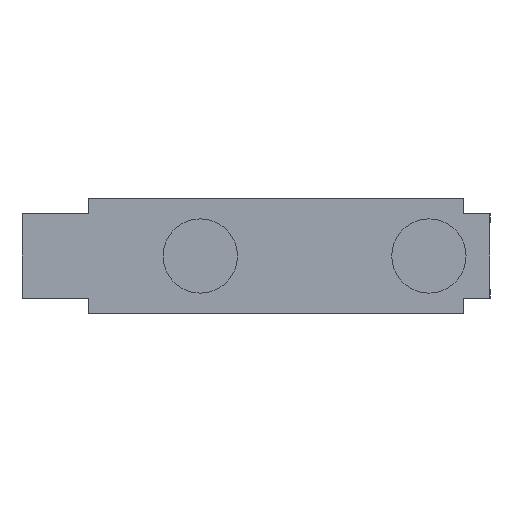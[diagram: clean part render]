
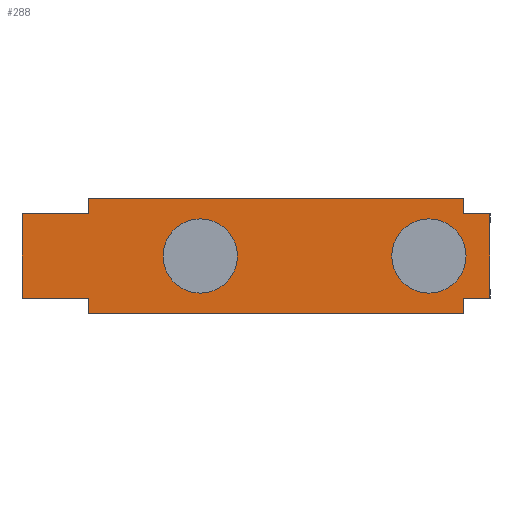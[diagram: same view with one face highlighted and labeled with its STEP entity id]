
A CAD part, left-side view. The second image highlights one B-rep face of the part: STEP entity #288.
In plain terms, the highlighted planar face has unit normal (-1, 0, 0).
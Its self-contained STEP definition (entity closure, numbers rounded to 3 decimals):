
#34 = VECTOR ( 'NONE', #701, 1000. ) ;
#61 = LINE ( 'NONE', #700, #34 ) ;
#62 = CIRCLE ( 'NONE', #2578, 5.2 ) ;
#123 = CIRCLE ( 'NONE', #2347, 5.2 ) ;
#274 = DIRECTION ( 'NONE',  ( -1., 0., 0. ) ) ;
#288 = ADVANCED_FACE ( 'NONE', ( #1898, #1899, #1903 ), #2242, .F. ) ;
#366 = DIRECTION ( 'NONE',  ( 0., -1., 0. ) ) ;
#411 = DIRECTION ( 'NONE',  ( 0., -1., 0. ) ) ;
#414 = CARTESIAN_POINT ( 'NONE',  ( 0.65, -8.55, 5.9 ) ) ;
#441 = CARTESIAN_POINT ( 'NONE',  ( 0.65, 56.95, -5.9 ) ) ;
#457 = DIRECTION ( 'NONE',  ( 0., 0., 1. ) ) ;
#458 = CARTESIAN_POINT ( 'NONE',  ( 0.65, -4.9, -8. ) ) ;
#462 = CARTESIAN_POINT ( 'NONE',  ( 0.65, 47.6, 8. ) ) ;
#463 = DIRECTION ( 'NONE',  ( 0., 1., 0. ) ) ;
#472 = CARTESIAN_POINT ( 'NONE',  ( 0.65, 47.6, -8. ) ) ;
#473 = DIRECTION ( 'NONE',  ( 0., 0., 1. ) ) ;
#498 = CARTESIAN_POINT ( 'NONE',  ( 0.65, 56.95, 5.9 ) ) ;
#501 = CARTESIAN_POINT ( 'NONE',  ( 0.65, 32., 0. ) ) ;
#503 = DIRECTION ( 'NONE',  ( -1., 0., 0. ) ) ;
#504 = DIRECTION ( 'NONE',  ( 0., -1., 0. ) ) ;
#510 = DIRECTION ( 'NONE',  ( 0., 0., 1. ) ) ;
#521 = CARTESIAN_POINT ( 'NONE',  ( 0.65, -8.55, -5.9 ) ) ;
#522 = DIRECTION ( 'NONE',  ( 0., 1., 0. ) ) ;
#559 = CARTESIAN_POINT ( 'NONE',  ( 0.65, -4.9, -8. ) ) ;
#566 = DIRECTION ( 'NONE',  ( 0., 0., 1. ) ) ;
#579 = CARTESIAN_POINT ( 'NONE',  ( 0.65, 47.6, -8. ) ) ;
#591 = DIRECTION ( 'NONE',  ( 0., 0., 1. ) ) ;
#598 = CARTESIAN_POINT ( 'NONE',  ( 0.65, 47.6, -5.9 ) ) ;
#599 = DIRECTION ( 'NONE',  ( 0., 1., 0. ) ) ;
#634 = CARTESIAN_POINT ( 'NONE',  ( 0.65, 0., 0. ) ) ;
#668 = DIRECTION ( 'NONE',  ( -1., 0., 0. ) ) ;
#669 = DIRECTION ( 'NONE',  ( 0., -1., 0. ) ) ;
#700 = CARTESIAN_POINT ( 'NONE',  ( 0.65, 47.6, -8. ) ) ;
#701 = DIRECTION ( 'NONE',  ( 0., 1., 0. ) ) ;
#727 = CARTESIAN_POINT ( 'NONE',  ( 0.65, 0., 0. ) ) ;
#737 = DIRECTION ( 'NONE',  ( -1., 0., 0. ) ) ;
#738 = DIRECTION ( 'NONE',  ( 0., -1., 0. ) ) ;
#803 = LINE ( 'NONE', #414, #806 ) ;
#806 = VECTOR ( 'NONE', #411, 1000. ) ;
#921 = LINE ( 'NONE', #1617, #944 ) ;
#926 = LINE ( 'NONE', #1627, #927 ) ;
#927 = VECTOR ( 'NONE', #1626, 1000. ) ;
#928 = CIRCLE ( 'NONE', #2317, 5.2 ) ;
#944 = VECTOR ( 'NONE', #1609, 1000. ) ;
#950 = LINE ( 'NONE', #462, #959 ) ;
#959 = VECTOR ( 'NONE', #463, 1000. ) ;
#962 = LINE ( 'NONE', #458, #963 ) ;
#963 = VECTOR ( 'NONE', #457, 1000. ) ;
#976 = LINE ( 'NONE', #472, #977 ) ;
#977 = VECTOR ( 'NONE', #473, 1000. ) ;
#1003 = LINE ( 'NONE', #498, #1007 ) ;
#1004 = CIRCLE ( 'NONE', #2334, 5.2 ) ;
#1007 = VECTOR ( 'NONE', #510, 1000. ) ;
#1019 = LINE ( 'NONE', #521, #1020 ) ;
#1020 = VECTOR ( 'NONE', #522, 1000. ) ;
#1045 = LINE ( 'NONE', #559, #1059 ) ;
#1059 = VECTOR ( 'NONE', #566, 1000. ) ;
#1060 = LINE ( 'NONE', #579, #1083 ) ;
#1083 = VECTOR ( 'NONE', #591, 1000. ) ;
#1090 = LINE ( 'NONE', #598, #1957 ) ;
#1099 = CARTESIAN_POINT ( 'NONE',  ( 0.65, -8.55, -5.9 ) ) ;
#1109 = CARTESIAN_POINT ( 'NONE',  ( 0.65, -5.2, 0. ) ) ;
#1111 = CARTESIAN_POINT ( 'NONE',  ( 0.65, 5.2, 0. ) ) ;
#1132 = CARTESIAN_POINT ( 'NONE',  ( 0.65, 47.6, 8. ) ) ;
#1134 = CARTESIAN_POINT ( 'NONE',  ( 0.65, 47.6, -5.9 ) ) ;
#1152 = CARTESIAN_POINT ( 'NONE',  ( 0.65, -4.9, 8. ) ) ;
#1187 = CARTESIAN_POINT ( 'NONE',  ( 0.65, 47.6, 5.9 ) ) ;
#1194 = CARTESIAN_POINT ( 'NONE',  ( 0.65, -8.55, 5.9 ) ) ;
#1197 = CARTESIAN_POINT ( 'NONE',  ( 0.65, -4.9, -8. ) ) ;
#1202 = CARTESIAN_POINT ( 'NONE',  ( 0.65, 47.6, -8. ) ) ;
#1217 = CARTESIAN_POINT ( 'NONE',  ( 0.65, 26.8, 0. ) ) ;
#1219 = CARTESIAN_POINT ( 'NONE',  ( 0.65, -4.9, 5.9 ) ) ;
#1225 = CARTESIAN_POINT ( 'NONE',  ( 0.65, -4.9, -5.9 ) ) ;
#1246 = CARTESIAN_POINT ( 'NONE',  ( 0.65, 56.95, 5.9 ) ) ;
#1255 = CARTESIAN_POINT ( 'NONE',  ( 0.65, 37.2, 0. ) ) ;
#1609 = DIRECTION ( 'NONE',  ( 0., 0., -1. ) ) ;
#1617 = CARTESIAN_POINT ( 'NONE',  ( 0.65, -8.55, 5.9 ) ) ;
#1626 = DIRECTION ( 'NONE',  ( 0., -1., 0. ) ) ;
#1627 = CARTESIAN_POINT ( 'NONE',  ( 0.65, 47.6, 5.9 ) ) ;
#1748 = ORIENTED_EDGE ( 'NONE', *, *, #2392, .F. ) ;
#1749 = ORIENTED_EDGE ( 'NONE', *, *, #2461, .F. ) ;
#1750 = ORIENTED_EDGE ( 'NONE', *, *, #2499, .T. ) ;
#1757 = ORIENTED_EDGE ( 'NONE', *, *, #2565, .F. ) ;
#1758 = ORIENTED_EDGE ( 'NONE', *, *, #2426, .T. ) ;
#1760 = ORIENTED_EDGE ( 'NONE', *, *, #2621, .F. ) ;
#1761 = ORIENTED_EDGE ( 'NONE', *, *, #2464, .F. ) ;
#1762 = ORIENTED_EDGE ( 'NONE', *, *, #2473, .F. ) ;
#1763 = ORIENTED_EDGE ( 'NONE', *, *, #2288, .F. ) ;
#1764 = ORIENTED_EDGE ( 'NONE', *, *, #2408, .F. ) ;
#1765 = ORIENTED_EDGE ( 'NONE', *, *, #2423, .T. ) ;
#1766 = ORIENTED_EDGE ( 'NONE', *, *, #2520, .F. ) ;
#1767 = ORIENTED_EDGE ( 'NONE', *, *, #2590, .F. ) ;
#1768 = ORIENTED_EDGE ( 'NONE', *, *, #2515, .F. ) ;
#1769 = ORIENTED_EDGE ( 'NONE', *, *, #2438, .F. ) ;
#1770 = ORIENTED_EDGE ( 'NONE', *, *, #2394, .F. ) ;
#1802 = EDGE_LOOP ( 'NONE', ( #1758, #1769, #1770, #1761, #1766, #1768, #1767, #1765, #1762, #1764, #1763, #1750 ) ) ;
#1805 = EDGE_LOOP ( 'NONE', ( #1749, #1748 ) ) ;
#1812 = EDGE_LOOP ( 'NONE', ( #1760, #1757 ) ) ;
#1898 = FACE_BOUND ( 'NONE', #1812, .T. ) ;
#1899 = FACE_OUTER_BOUND ( 'NONE', #1802, .T. ) ;
#1903 = FACE_BOUND ( 'NONE', #1805, .T. ) ;
#1957 = VECTOR ( 'NONE', #599, 1000. ) ;
#1959 = CARTESIAN_POINT ( 'NONE',  ( 0.65, 32., 0. ) ) ;
#1979 = VERTEX_POINT ( 'NONE', #1255 ) ;
#1983 = VERTEX_POINT ( 'NONE', #1246 ) ;
#1999 = VERTEX_POINT ( 'NONE', #1225 ) ;
#2003 = VERTEX_POINT ( 'NONE', #1219 ) ;
#2004 = VERTEX_POINT ( 'NONE', #1217 ) ;
#2016 = VERTEX_POINT ( 'NONE', #1202 ) ;
#2018 = VERTEX_POINT ( 'NONE', #1197 ) ;
#2021 = VERTEX_POINT ( 'NONE', #1194 ) ;
#2025 = VERTEX_POINT ( 'NONE', #1187 ) ;
#2051 = VERTEX_POINT ( 'NONE', #1152 ) ;
#2065 = VERTEX_POINT ( 'NONE', #1134 ) ;
#2066 = VERTEX_POINT ( 'NONE', #1132 ) ;
#2120 = VERTEX_POINT ( 'NONE', #1111 ) ;
#2122 = VERTEX_POINT ( 'NONE', #1109 ) ;
#2131 = VERTEX_POINT ( 'NONE', #1099 ) ;
#2143 = CARTESIAN_POINT ( 'NONE',  ( 0.65, 47.6, -8. ) ) ;
#2146 = VERTEX_POINT ( 'NONE', #441 ) ;
#2179 = DIRECTION ( 'NONE',  ( 1., 0., 0. ) ) ;
#2180 = DIRECTION ( 'NONE',  ( 0., -1., 0. ) ) ;
#2242 = PLANE ( 'NONE',  #2516 ) ;
#2288 = EDGE_CURVE ( 'NONE', #2003, #2021, #803, .T. ) ;
#2317 = AXIS2_PLACEMENT_3D ( 'NONE', #1959, #274, #366 ) ;
#2334 = AXIS2_PLACEMENT_3D ( 'NONE', #501, #503, #504 ) ;
#2347 = AXIS2_PLACEMENT_3D ( 'NONE', #727, #737, #738 ) ;
#2392 = EDGE_CURVE ( 'NONE', #1979, #2004, #928, .T. ) ;
#2394 = EDGE_CURVE ( 'NONE', #1983, #2025, #926, .T. ) ;
#2408 = EDGE_CURVE ( 'NONE', #2021, #2131, #921, .T. ) ;
#2423 = EDGE_CURVE ( 'NONE', #2018, #1999, #962, .T. ) ;
#2426 = EDGE_CURVE ( 'NONE', #2051, #2066, #950, .T. ) ;
#2438 = EDGE_CURVE ( 'NONE', #2025, #2066, #976, .T. ) ;
#2461 = EDGE_CURVE ( 'NONE', #2004, #1979, #1004, .T. ) ;
#2464 = EDGE_CURVE ( 'NONE', #2146, #1983, #1003, .T. ) ;
#2473 = EDGE_CURVE ( 'NONE', #2131, #1999, #1019, .T. ) ;
#2499 = EDGE_CURVE ( 'NONE', #2003, #2051, #1045, .T. ) ;
#2515 = EDGE_CURVE ( 'NONE', #2016, #2065, #1060, .T. ) ;
#2516 = AXIS2_PLACEMENT_3D ( 'NONE', #2143, #2179, #2180 ) ;
#2520 = EDGE_CURVE ( 'NONE', #2065, #2146, #1090, .T. ) ;
#2565 = EDGE_CURVE ( 'NONE', #2120, #2122, #62, .T. ) ;
#2578 = AXIS2_PLACEMENT_3D ( 'NONE', #634, #668, #669 ) ;
#2590 = EDGE_CURVE ( 'NONE', #2018, #2016, #61, .T. ) ;
#2621 = EDGE_CURVE ( 'NONE', #2122, #2120, #123, .T. ) ;
